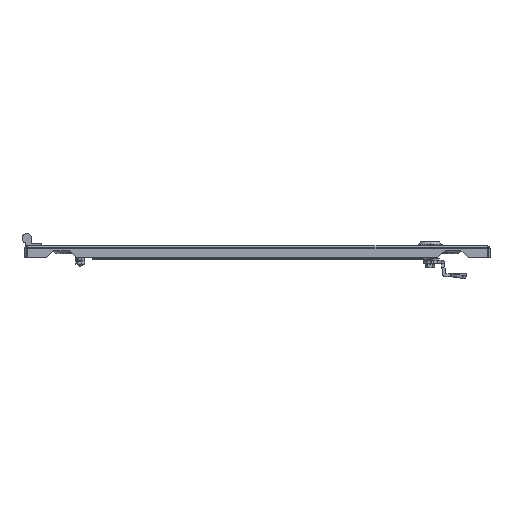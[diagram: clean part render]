
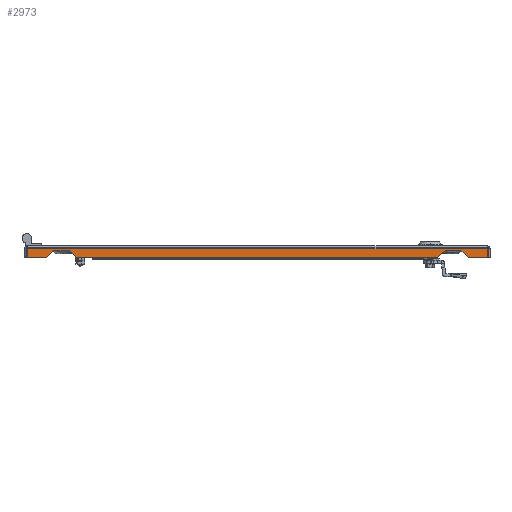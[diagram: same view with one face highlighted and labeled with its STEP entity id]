
A CAD part, front view. The second image highlights one B-rep face of the part: STEP entity #2973.
In plain terms, the highlighted planar face has unit normal (0, -1, 0).
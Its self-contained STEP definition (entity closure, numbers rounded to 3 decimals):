
#1183 = VERTEX_POINT ( 'NONE', #9434 ) ;
#1186 = VERTEX_POINT ( 'NONE', #9437 ) ;
#1187 = VERTEX_POINT ( 'NONE', #9438 ) ;
#1190 = VERTEX_POINT ( 'NONE', #9441 ) ;
#1242 = VERTEX_POINT ( 'NONE', #9493 ) ;
#1248 = VERTEX_POINT ( 'NONE', #9499 ) ;
#1266 = VERTEX_POINT ( 'NONE', #9517 ) ;
#1267 = VERTEX_POINT ( 'NONE', #9518 ) ;
#1269 = VERTEX_POINT ( 'NONE', #9520 ) ;
#1271 = VERTEX_POINT ( 'NONE', #9522 ) ;
#1273 = VERTEX_POINT ( 'NONE', #9524 ) ;
#1275 = VERTEX_POINT ( 'NONE', #9526 ) ;
#2973 = ADVANCED_FACE ( 'NONE', ( #12581 ), #14339, .T. ) ;
#6058 = ORIENTED_EDGE ( 'NONE', *, *, #6743, .T. ) ;
#6059 = ORIENTED_EDGE ( 'NONE', *, *, #6630, .T. ) ;
#6060 = ORIENTED_EDGE ( 'NONE', *, *, #6744, .T. ) ;
#6061 = ORIENTED_EDGE ( 'NONE', *, *, #6745, .T. ) ;
#6062 = ORIENTED_EDGE ( 'NONE', *, *, #6746, .T. ) ;
#6063 = ORIENTED_EDGE ( 'NONE', *, *, #6717, .T. ) ;
#6064 = ORIENTED_EDGE ( 'NONE', *, *, #6747, .T. ) ;
#6065 = ORIENTED_EDGE ( 'NONE', *, *, #6748, .T. ) ;
#6066 = ORIENTED_EDGE ( 'NONE', *, *, #6749, .T. ) ;
#6067 = ORIENTED_EDGE ( 'NONE', *, *, #6638, .T. ) ;
#6068 = ORIENTED_EDGE ( 'NONE', *, *, #6750, .T. ) ;
#6069 = ORIENTED_EDGE ( 'NONE', *, *, #6751, .T. ) ;
#6465 = EDGE_LOOP ( 'NONE', ( #6058, #6059, #6060, #6061, #6062, #6063, #6064, #6065, #6066, #6067, #6068, #6069 ) ) ;
#6630 = EDGE_CURVE ( 'NONE', #1183, #1186, #8620, .T. ) ;
#6638 = EDGE_CURVE ( 'NONE', #1187, #1190, #15685, .T. ) ;
#6717 = EDGE_CURVE ( 'NONE', #1248, #1242, #15825, .T. ) ;
#6743 = EDGE_CURVE ( 'NONE', #1269, #1183, #15877, .T. ) ;
#6744 = EDGE_CURVE ( 'NONE', #1186, #1271, #15879, .T. ) ;
#6745 = EDGE_CURVE ( 'NONE', #1271, #1273, #15881, .T. ) ;
#6746 = EDGE_CURVE ( 'NONE', #1273, #1248, #15883, .T. ) ;
#6747 = EDGE_CURVE ( 'NONE', #1242, #1266, #15885, .T. ) ;
#6748 = EDGE_CURVE ( 'NONE', #1266, #1275, #15887, .T. ) ;
#6749 = EDGE_CURVE ( 'NONE', #1275, #1187, #15889, .T. ) ;
#6750 = EDGE_CURVE ( 'NONE', #1190, #1267, #15891, .T. ) ;
#6751 = EDGE_CURVE ( 'NONE', #1267, #1269, #15893, .T. ) ;
#7406 = AXIS2_PLACEMENT_3D ( 'NONE', #14341, #14349, #14351 ) ;
#8620 = LINE ( 'NONE', #14772, #15675 ) ;
#9434 = CARTESIAN_POINT ( 'NONE',  ( 265., -497., -15. ) ) ;
#9437 = CARTESIAN_POINT ( 'NONE',  ( 289., -497., -15. ) ) ;
#9438 = CARTESIAN_POINT ( 'NONE',  ( -227., -497., -15. ) ) ;
#9441 = CARTESIAN_POINT ( 'NONE',  ( 227., -497., -15. ) ) ;
#9493 = CARTESIAN_POINT ( 'NONE',  ( -265., -497., -15. ) ) ;
#9499 = CARTESIAN_POINT ( 'NONE',  ( -289., -497., -15. ) ) ;
#9517 = CARTESIAN_POINT ( 'NONE',  ( -256., -497., -6. ) ) ;
#9518 = CARTESIAN_POINT ( 'NONE',  ( 236., -497., -6. ) ) ;
#9520 = CARTESIAN_POINT ( 'NONE',  ( 256., -497., -6. ) ) ;
#9522 = CARTESIAN_POINT ( 'NONE',  ( 289., -497., -3.5 ) ) ;
#9524 = CARTESIAN_POINT ( 'NONE',  ( -289., -497., -3.5 ) ) ;
#9526 = CARTESIAN_POINT ( 'NONE',  ( -236., -497., -6. ) ) ;
#12581 = FACE_OUTER_BOUND ( 'NONE', #6465, .T. ) ;
#14339 = PLANE ( 'NONE',  #7406 ) ;
#14341 = CARTESIAN_POINT ( 'NONE',  ( 292.5, -497., -15. ) ) ;
#14349 = DIRECTION ( 'NONE',  ( 0., -1., 0. ) ) ;
#14351 = DIRECTION ( 'NONE',  ( 1., 0., 0. ) ) ;
#14768 = DIRECTION ( 'NONE',  ( 1., 0., 0. ) ) ;
#14772 = CARTESIAN_POINT ( 'NONE',  ( 292.5, -497., -15. ) ) ;
#14786 = CARTESIAN_POINT ( 'NONE',  ( 292.5, -497., -15. ) ) ;
#14795 = DIRECTION ( 'NONE',  ( 1., 0., 0. ) ) ;
#15675 = VECTOR ( 'NONE', #14768, 1000. ) ;
#15685 = LINE ( 'NONE', #14786, #15691 ) ;
#15691 = VECTOR ( 'NONE', #14795, 1000. ) ;
#15825 = LINE ( 'NONE', #16701, #15832 ) ;
#15832 = VECTOR ( 'NONE', #16706, 1000. ) ;
#15877 = LINE ( 'NONE', #16761, #15880 ) ;
#15879 = LINE ( 'NONE', #16763, #15882 ) ;
#15880 = VECTOR ( 'NONE', #16762, 1000. ) ;
#15881 = LINE ( 'NONE', #16765, #15884 ) ;
#15882 = VECTOR ( 'NONE', #16764, 1000. ) ;
#15883 = LINE ( 'NONE', #16767, #15886 ) ;
#15884 = VECTOR ( 'NONE', #16766, 1000. ) ;
#15885 = LINE ( 'NONE', #16769, #15888 ) ;
#15886 = VECTOR ( 'NONE', #16768, 1000. ) ;
#15887 = LINE ( 'NONE', #16771, #15890 ) ;
#15888 = VECTOR ( 'NONE', #16770, 1000. ) ;
#15889 = LINE ( 'NONE', #16773, #15892 ) ;
#15890 = VECTOR ( 'NONE', #16772, 1000. ) ;
#15891 = LINE ( 'NONE', #16775, #15894 ) ;
#15892 = VECTOR ( 'NONE', #16774, 1000. ) ;
#15893 = LINE ( 'NONE', #16777, #15896 ) ;
#15894 = VECTOR ( 'NONE', #16776, 1000. ) ;
#15896 = VECTOR ( 'NONE', #16778, 1000. ) ;
#16701 = CARTESIAN_POINT ( 'NONE',  ( 292.5, -497., -15. ) ) ;
#16706 = DIRECTION ( 'NONE',  ( 1., 0., 0. ) ) ;
#16761 = CARTESIAN_POINT ( 'NONE',  ( 265., -497., -15. ) ) ;
#16762 = DIRECTION ( 'NONE',  ( 0.707, 0., -0.707 ) ) ;
#16763 = CARTESIAN_POINT ( 'NONE',  ( 289., -497., -15. ) ) ;
#16764 = DIRECTION ( 'NONE',  ( 0., 0., 1. ) ) ;
#16765 = CARTESIAN_POINT ( 'NONE',  ( -292.5, -497., -3.5 ) ) ;
#16766 = DIRECTION ( 'NONE',  ( -1., 0., 0. ) ) ;
#16767 = CARTESIAN_POINT ( 'NONE',  ( -289., -497., -15. ) ) ;
#16768 = DIRECTION ( 'NONE',  ( 0., 0., -1. ) ) ;
#16769 = CARTESIAN_POINT ( 'NONE',  ( -265., -497., -15. ) ) ;
#16770 = DIRECTION ( 'NONE',  ( 0.707, 0., 0.707 ) ) ;
#16771 = CARTESIAN_POINT ( 'NONE',  ( -256., -497., -6. ) ) ;
#16772 = DIRECTION ( 'NONE',  ( 1., 0., 0. ) ) ;
#16773 = CARTESIAN_POINT ( 'NONE',  ( -236., -497., -6. ) ) ;
#16774 = DIRECTION ( 'NONE',  ( 0.707, 0., -0.707 ) ) ;
#16775 = CARTESIAN_POINT ( 'NONE',  ( 236., -497., -6. ) ) ;
#16776 = DIRECTION ( 'NONE',  ( 0.707, 0., 0.707 ) ) ;
#16777 = CARTESIAN_POINT ( 'NONE',  ( 256., -497., -6. ) ) ;
#16778 = DIRECTION ( 'NONE',  ( 1., 0., 0. ) ) ;
